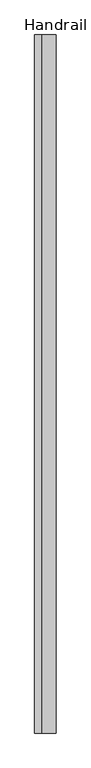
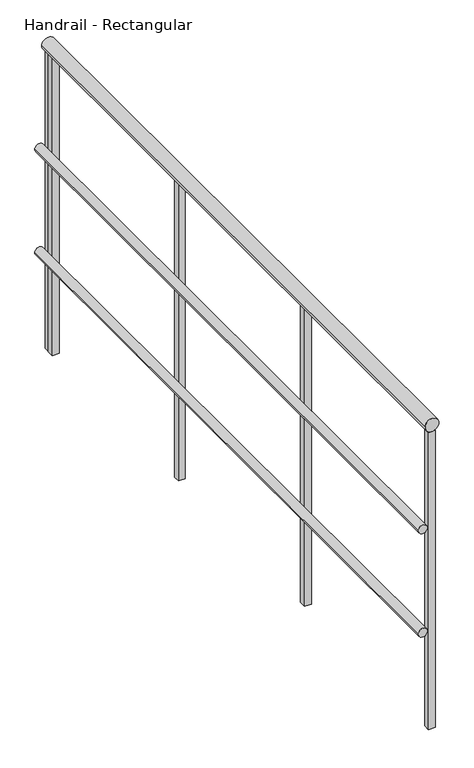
"""IFC4 building model written with IfcOpenShell, lengths in millimetres: railing geometry, Handrail - Rectangular."""

import ifcopenshell
import ifcopenshell.guid

model = None  # the IFC model being written
_history = None  # IfcOwnerHistory: only IFC2X3 demands one
_inside = {}  # id of a spatial element -> (the spatial element, [elements in it])
_under = {}  # id of a project, library or spatial element -> (it, [spatial elements below it])
_declared = {}  # id of a project -> (the project, [libraries it declares])
_typed = {}  # id of a type object -> (the type object, [elements of that type])
_made_of = {}  # id of a material, layer set ... -> (it, [elements and type objects made of it])


def new_model(schema):
    """Start an empty IFC model of exactly this schema.

    Asked for "IFC4X3", IfcOpenShell would pick the latest addendum, in which some entities
    have other attributes; the version numbers below select the first issue.
    IFC2X3 requires an IfcOwnerHistory on every rooted entity: one is made here for all.
    """
    global model, _history
    if schema == "IFC4X3":
        model = ifcopenshell.file(schema_version=(4, 3, 0, 0))
    else:
        model = ifcopenshell.file(schema=schema)
    _inside.clear()
    _under.clear()
    _declared.clear()
    _typed.clear()
    _made_of.clear()
    _history = None
    if model.schema == "IFC2X3":
        org = make("IfcOrganization", Name="unknown")
        user = make(
            "IfcPersonAndOrganization",
            ThePerson=make("IfcPerson", FamilyName="unknown"),
            TheOrganization=org,
        )
        app = make(
            "IfcApplication",
            ApplicationDeveloper=org,
            Version="unknown",
            ApplicationFullName="unknown",
            ApplicationIdentifier="unknown",
        )
        _history = make(
            "IfcOwnerHistory",
            OwningUser=user,
            OwningApplication=app,
            ChangeAction="ADDED",
            CreationDate=0,
        )
    return model


def make(cls, **values):
    """One entity of the class cls with the attributes given. An attribute that is None is left unset."""
    return model.create_entity(
        cls, **{name: value for name, value in values.items() if value is not None}
    )


def rooted(cls, **values):
    """An entity with a GlobalId (a new one), such as an element, a storey or a relation."""
    return make(cls, GlobalId=ifcopenshell.guid.new(), OwnerHistory=_history, **values)


def si_unit(unit_type, name, prefix=None):
    """IfcSIUnit, for example si_unit("LENGTHUNIT", "METRE", prefix="MILLI")."""
    return make("IfcSIUnit", UnitType=unit_type, Prefix=prefix, Name=name)


def assignment(units):
    """IfcUnitAssignment: the units of a project."""
    return None if units is None else make("IfcUnitAssignment", Units=units)


def point(xyz):
    """IfcCartesianPoint."""
    return None if xyz is None else make("IfcCartesianPoint", Coordinates=xyz)


def direction(xyz):
    """IfcDirection."""
    return None if xyz is None else make("IfcDirection", DirectionRatios=xyz)


def frame(location, z_axis=None, x_axis=None):
    """IfcAxis2Placement3D, a coordinate frame: its origin and axes. An axis left out is left unset."""
    return make(
        "IfcAxis2Placement3D",
        Location=point(location),
        Axis=direction(z_axis),
        RefDirection=direction(x_axis),
    )


def frame_2d(location, x_axis=None):
    """IfcAxis2Placement2D, a coordinate frame in the plane: its origin and x axis."""
    return make(
        "IfcAxis2Placement2D", Location=point(location), RefDirection=direction(x_axis)
    )


def origin():
    """The frame at (0, 0, 0) with its axes left unset."""
    return frame((0.0, 0.0, 0.0))


def place(relative_to, where):
    """IfcLocalPlacement: puts the frame where relative to a parent placement (None: the world)."""
    return make(
        "IfcLocalPlacement", PlacementRelTo=relative_to, RelativePlacement=where
    )


def context(
    kind, dimensions, precision=None, world=None, true_north=None, identifier=None
):
    """IfcGeometricRepresentationContext, for example the 3D "Model" context."""
    return make(
        "IfcGeometricRepresentationContext",
        ContextIdentifier=identifier,
        ContextType=kind,
        CoordinateSpaceDimension=dimensions,
        Precision=precision,
        WorldCoordinateSystem=world,
        TrueNorth=true_north,
    )


def project(units=None, contexts=None):
    """IfcProject with its units and contexts."""
    return rooted(
        "IfcProject",
        Name="project",
        RepresentationContexts=contexts,
        UnitsInContext=assignment(units),
    )


def spatial(cls, under=None, at=None, **own):
    """A site, building, storey or space (cls), placed at a placement, below another one or the project."""
    s = rooted(cls, ObjectPlacement=at, **own)
    if under is not None:
        _under.setdefault(under.id(), (under, []))[1].append(s)
    return s


def polyline(points):
    """IfcPolyline through the points."""
    return make("IfcPolyline", Points=[point(p) for p in points])


def circle_curve(where, radius):
    """IfcCircle in the frame where."""
    return make("IfcCircle", Position=where, Radius=radius)


def trimmed(basis, trim1, trim2, sense, master):
    """IfcTrimmedCurve: the piece of a basis curve between two trims."""
    return make(
        "IfcTrimmedCurve",
        BasisCurve=basis,
        Trim1=trim1,
        Trim2=trim2,
        SenseAgreement=sense,
        MasterRepresentation=master,
    )


def segment(curve, same_sense, transition):
    """IfcCompositeCurveSegment."""
    return make(
        "IfcCompositeCurveSegment",
        Transition=transition,
        SameSense=same_sense,
        ParentCurve=curve,
    )


def composite_curve(segments, self_intersect=None):
    """IfcCompositeCurve: segments joined end to end."""
    return make("IfcCompositeCurve", Segments=segments, SelfIntersect=self_intersect)


def outline(outer, holes=None, kind="AREA"):
    """IfcArbitraryClosedProfileDef: a profile drawn as a closed curve; with holes, ...WithVoids."""
    if holes is None:
        return make("IfcArbitraryClosedProfileDef", ProfileType=kind, OuterCurve=outer)
    return make(
        "IfcArbitraryProfileDefWithVoids",
        ProfileType=kind,
        OuterCurve=outer,
        InnerCurves=holes,
    )


def extrude(swept, where, along, depth):
    """IfcExtrudedAreaSolid: the profile swept, set in the frame where, extruded along a direction by depth."""
    return make(
        "IfcExtrudedAreaSolid",
        SweptArea=swept,
        Position=where,
        ExtrudedDirection=direction(along),
        Depth=depth,
    )


def shape(context_of_items, identifier, shape_type, items):
    """IfcShapeRepresentation: the items that make up one representation, for example the "Body"."""
    return make(
        "IfcShapeRepresentation",
        ContextOfItems=context_of_items,
        RepresentationIdentifier=identifier,
        RepresentationType=shape_type,
        Items=items,
    )


def source(mapping_origin, context_of_items, identifier, shape_type, items):
    """IfcRepresentationMap: a shape defined once, which mapped items show again and again."""
    return make(
        "IfcRepresentationMap",
        MappingOrigin=mapping_origin,
        MappedRepresentation=shape(context_of_items, identifier, shape_type, items),
    )


def transform(
    local_origin,
    x_axis=None,
    y_axis=None,
    z_axis=None,
    scale=None,
    scale2=None,
    scale3=None,
    uniform=True,
):
    """IfcCartesianTransformationOperator3D, or its non-uniform kind. x_axis, y_axis, z_axis: its Axis1, 2, 3."""
    if uniform:
        return make(
            "IfcCartesianTransformationOperator3D",
            Axis1=direction(x_axis),
            Axis2=direction(y_axis),
            LocalOrigin=point(local_origin),
            Scale=scale,
            Axis3=direction(z_axis),
        )
    return make(
        "IfcCartesianTransformationOperator3DnonUniform",
        Axis1=direction(x_axis),
        Axis2=direction(y_axis),
        LocalOrigin=point(local_origin),
        Scale=scale,
        Axis3=direction(z_axis),
        Scale2=scale2,
        Scale3=scale3,
    )


def mapped(mapping_source, mapping_target):
    """IfcMappedItem: shows the shape of a source again, moved by a transform."""
    return make(
        "IfcMappedItem", MappingSource=mapping_source, MappingTarget=mapping_target
    )


def made_of(thing, what):
    """Note that an element or type object is made of a material, layer set ...; save() writes the relation."""
    if what is not None:
        _made_of.setdefault(what.id(), (what, []))[1].append(thing)
    return thing


def element(
    cls,
    number,
    at=None,
    inside=None,
    cuts=None,
    type_object=None,
    material=None,
    context=None,
    identifier="Body",
    shape_type=None,
    held_by="IfcProductDefinitionShape",
    body=None,
    shapes=None,
    **own,
):
    """One element of the class cls, such as IfcWall. Its Tag is "e" and its number.

    at: its placement. inside: the storey or other place that contains it. cuts: it is an
    opening in that element (IfcRelVoidsElement). A single representation is given by context,
    identifier, shape_type and body (its items); several are given by shapes. held_by: the class
    of the entity that holds the representations. save() writes the other relations.
    """
    e = rooted(cls, Tag="e%d" % number, ObjectPlacement=at, **own)
    if body is not None:
        shapes = [shape(context, identifier, shape_type, body)]
    if shapes is not None:
        e.Representation = make(held_by, Representations=shapes)
    if inside is not None:
        _inside.setdefault(inside.id(), (inside, []))[1].append(e)
    if cuts is not None:
        rooted(
            "IfcRelVoidsElement", RelatingBuildingElement=cuts, RelatedOpeningElement=e
        )
    if type_object is not None:
        _typed.setdefault(type_object.id(), (type_object, []))[1].append(e)
    return made_of(e, material)


def aggregate(whole, parts):
    """IfcRelAggregates: a whole, such as a stair, and the parts it consists of."""
    return rooted("IfcRelAggregates", RelatingObject=whole, RelatedObjects=parts)


def save(model, path):
    """Write the relations noted so far, then the file.

    IfcRelAggregates (storeys below a building ...), IfcRelContainedInSpatialStructure (elements
    in a storey), IfcRelDefinesByType, IfcRelAssociatesMaterial and IfcRelDeclares: one each for
    every whole, place, type object, material and project.
    """
    for whole, parts in _under.values():
        aggregate(whole, parts)
    for where, things in _inside.values():
        rooted(
            "IfcRelContainedInSpatialStructure",
            RelatedElements=things,
            RelatingStructure=where,
        )
    for kind, things in _typed.values():
        rooted("IfcRelDefinesByType", RelatedObjects=things, RelatingType=kind)
    for what, things in _made_of.values():
        rooted("IfcRelAssociatesMaterial", RelatedObjects=things, RelatingMaterial=what)
    for by, libraries in _declared.values():
        rooted("IfcRelDeclares", RelatingContext=by, RelatedDefinitions=libraries)
    model.write(path)


def handrail_rectangular_f98c5335(model_context):
    return source(origin(), model_context, "Body", "SweptSolid", [
        extrude(outline(composite_curve([segment(trimmed(circle_curve(frame_2d((3644.9, -32192.8839563)), 12.7), [point((3644.9, -32205.5839563))], [point((3644.9, -32180.1839563))], False, "CARTESIAN"), True, "CONTINUOUS"), segment(trimmed(circle_curve(frame_2d((3644.9, -32192.8839563)), 12.7), [point((3644.9, -32180.1839563))], [point((3644.9, -32205.5839563))], False, "CARTESIAN"), True, "CONTINUOUS")], self_intersect=False)), frame((0.0, -30041.3683133, 0.0), z_axis=(0.0, 1.0, 0.0), x_axis=(0.0, 0.0, 1.0)), (0.0, 0.0, 1.0), 1854.2),
        extrude(outline(composite_curve([segment(trimmed(circle_curve(frame_2d((3340.1, -32192.8839563)), 12.7), [point((3340.1, -32205.5839563))], [point((3340.1, -32180.1839563))], False, "CARTESIAN"), True, "CONTINUOUS"), segment(trimmed(circle_curve(frame_2d((3340.1, -32192.8839563)), 12.7), [point((3340.1, -32180.1839563))], [point((3340.1, -32205.5839563))], False, "CARTESIAN"), True, "CONTINUOUS")], self_intersect=False)), frame((0.0, -30041.3683133, 0.0), z_axis=(0.0, 1.0, 0.0), x_axis=(0.0, 0.0, 1.0)), (0.0, 0.0, 1.0), 1854.2),
        extrude(outline(composite_curve([segment(trimmed(circle_curve(frame_2d((3943.35, -32167.4839563)), 19.05), [point((3943.35, -32186.5339563))], [point((3943.35, -32148.4339563))], False, "CARTESIAN"), True, "CONTINUOUS"), segment(trimmed(circle_curve(frame_2d((3943.35, -32167.4839563)), 19.05), [point((3943.35, -32148.4339563))], [point((3943.35, -32186.5339563))], False, "CARTESIAN"), True, "CONTINUOUS")], self_intersect=False)), frame((0.0, -30041.3683133, 0.0), z_axis=(0.0, 1.0, 0.0), x_axis=(0.0, 0.0, 1.0)), (0.0, 0.0, 1.0), 1854.2),
        extrude(outline(polyline([(-32157.9589563, -28222.0933133), (-32177.0089563, -28222.0933133), (-32177.0089563, -28203.0433133), (-32157.9589563, -28203.0433133), (-32157.9589563, -28222.0933133)])), frame((0.0, 0.0, 3048.0), z_axis=(0.0, 0.0, 1.0), x_axis=(1.0, 0.0, 0.0)), (0.0, 0.0, 1.0), 876.3),
        extrude(outline(polyline([(-32157.9589563, -28831.6933133), (-32177.0089563, -28831.6933133), (-32177.0089563, -28812.6433133), (-32157.9589563, -28812.6433133), (-32157.9589563, -28831.6933133)])), frame((0.0, 0.0, 3048.0), z_axis=(0.0, 0.0, 1.0), x_axis=(1.0, 0.0, 0.0)), (0.0, 0.0, 1.0), 876.3),
        extrude(outline(polyline([(-32157.9589563, -29441.2933133), (-32177.0089563, -29441.2933133), (-32177.0089563, -29422.2433133), (-32157.9589563, -29422.2433133), (-32157.9589563, -29441.2933133)])), frame((0.0, 0.0, 3048.0), z_axis=(0.0, 0.0, 1.0), x_axis=(1.0, 0.0, 0.0)), (0.0, 0.0, 1.0), 876.3),
        extrude(outline(polyline([(-32157.9589563, -28206.2183133), (-32177.0089563, -28206.2183133), (-32177.0089563, -28187.1683133), (-32157.9589563, -28187.1683133), (-32157.9589563, -28206.2183133)])), frame((0.0, 0.0, 3048.0), z_axis=(0.0, 0.0, 1.0), x_axis=(1.0, 0.0, 0.0)), (0.0, 0.0, 1.0), 876.3),
        extrude(outline(polyline([(-32157.9589563, -30041.3683133), (-32177.0089563, -30041.3683133), (-32177.0089563, -30022.3183133), (-32157.9589563, -30022.3183133), (-32157.9589563, -30041.3683133)])), frame((0.0, 0.0, 3048.0), z_axis=(0.0, 0.0, 1.0), x_axis=(1.0, 0.0, 0.0)), (0.0, 0.0, 1.0), 876.3),
    ])


if __name__ == "__main__":
    model = new_model("IFC4")
    model_context = context("Model", 3, world=origin())
    ifc_project = project(units=[si_unit("LENGTHUNIT", "METRE", prefix="MILLI")], contexts=[model_context])
    site = spatial("IfcSite", under=ifc_project)
    building = spatial("IfcBuilding", under=site)
    placement = place(None, origin())
    handrail_rectangular_shape = handrail_rectangular_f98c5335(model_context)
    element("IfcRailing", 1, ObjectType="Handrail - Rectangular", at=placement, inside=building, context=model_context, shape_type="MappedRepresentation", body=[
        mapped(handrail_rectangular_shape, transform((0.0, 0.0, 0.0), x_axis=(1.0, 0.0, 0.0), y_axis=(0.0, 1.0, 0.0), z_axis=(0.0, 0.0, 1.0))),
    ])
    save(model, "model.ifc")
